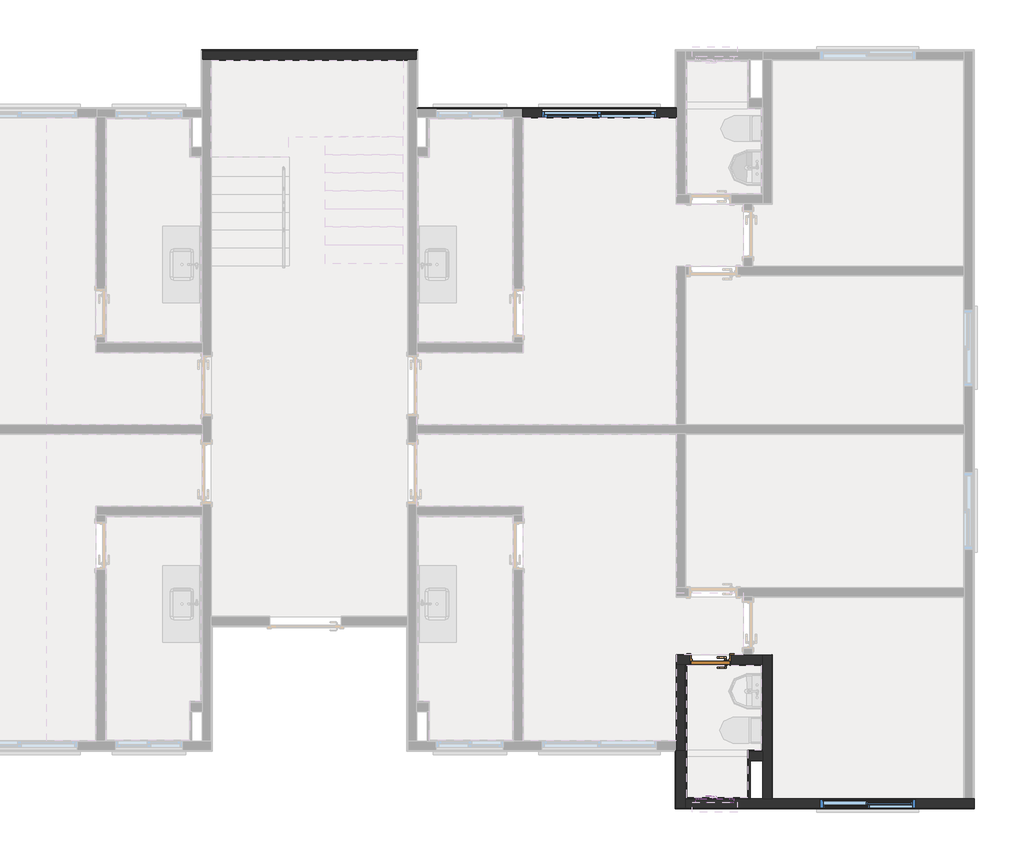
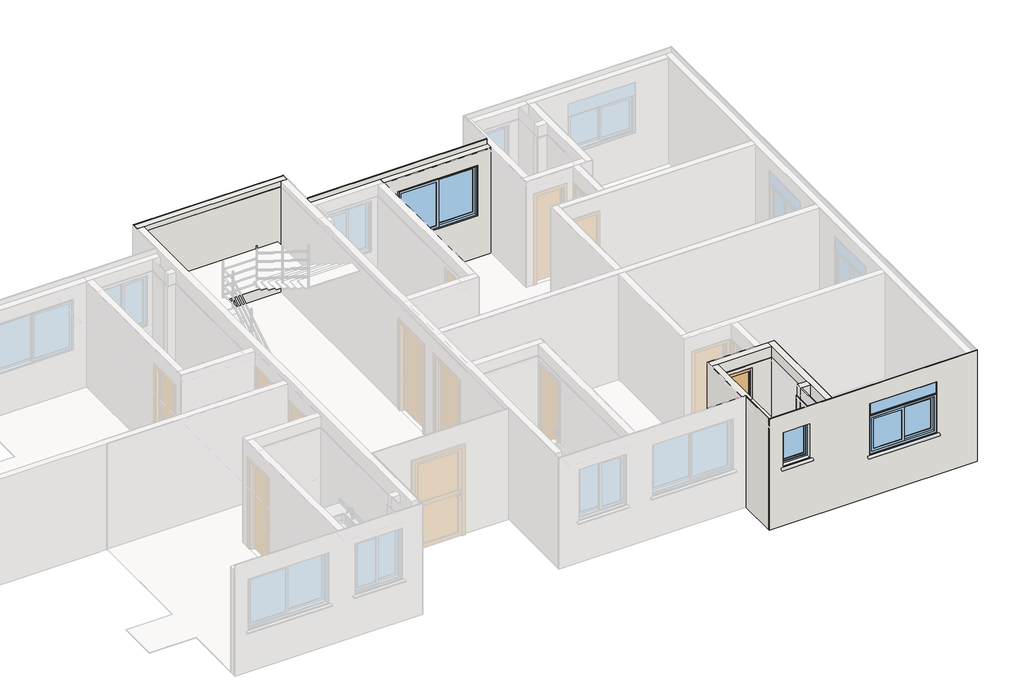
# One storey, part 6 of 9: 26 walls, 3 windows, 1 door.
"""IFC4 building model written with IfcOpenShell, lengths in millimetres."""

from ifc_helpers import new_model, si_unit, frame, origin, place, context, project, spatial, polyline, outline, extrude, faceted_brep, transform, mapped, element, save
from components import porta_de_madeira_interna_60_x_210_porta_de_madeira_interna_6d4bee1b, window_150x120_d34a449e, window_180x120_f0fd8075, window_60x80_6d4336cf

model = new_model("IFC4")

# Units and contexts
model_context = context("Model", 3, world=origin())
ifc_project = project(units=[si_unit("LENGTHUNIT", "METRE", prefix="MILLI")], contexts=[model_context])

# Site, building, storey
site = spatial("IfcSite", under=ifc_project)
building = spatial("IfcBuilding", under=site)
storey = spatial("IfcBuildingStorey", under=building, Name="3º Pavimento", Elevation=5260.0)

# Door
placement = place(None, origin())
porta_de_madeira_interna_60_x_210_porta_de_madeira_interna_shape = porta_de_madeira_interna_60_x_210_porta_de_madeira_interna_6d4bee1b(model_context)
element("IfcDoor", 1, ObjectType="Porta de Madeira Interna 60 x 210 : Porta de Madeira Interna 60 x 210", at=placement, inside=storey, context=model_context, shape_type="MappedRepresentation", body=[
    mapped(porta_de_madeira_interna_60_x_210_porta_de_madeira_interna_shape, transform((16681.9956991, 2796.8217615, 5260.0), x_axis=(-1.0, 0.0, 0.0), y_axis=(0.0, -1.0, 0.0), z_axis=(0.0, 0.0, 1.0))),
])

# Walls
element("IfcWall", 2, ObjectType="Mureta box", at=placement, inside=storey, context=model_context, shape_type="SweptSolid", body=[
    extrude(outline(polyline([(17290.0007274, 1294.9970972), (16310.0007274, 1294.9970972), (16310.0007274, 1304.9970972), (17290.0007274, 1304.9970972), (17290.0007274, 1294.9970972)])), frame((0.0, 0.0, 5260.0), z_axis=(0.0, 0.0, 1.0), x_axis=(1.0, 0.0, 0.0)), (0.0, 0.0, 1.0), 90.0),
    extrude(outline(polyline([(16310.0007274, 1374.9970972), (17290.0007274, 1374.9970972), (17290.0007274, 1364.9970972), (16310.0007274, 1364.9970972), (16310.0007274, 1374.9970972)])), frame((0.0, 0.0, 5260.0), z_axis=(0.0, 0.0, 1.0), x_axis=(1.0, 0.0, 0.0)), (0.0, 0.0, 1.0), 90.0),
    extrude(outline(polyline([(17290.0007274, 1364.9970972), (17290.0007274, 1304.9970972), (16310.0007274, 1304.9970972), (16310.0007274, 1364.9970972), (17290.0007274, 1364.9970972)])), frame((0.0, 0.0, 5260.0), z_axis=(0.0, 0.0, 1.0), x_axis=(1.0, 0.0, 0.0)), (0.0, 0.0, 1.0), 90.0),
])
element("IfcWall", 3, ObjectType="Alvenaria Estrutural", at=placement, inside=storey, context=model_context, shape_type="Brep", body=[
    faceted_brep([(12089.9984066, 12179.9995833, 5260.0), (12089.9984066, 12179.9995833, 7890.0), (11949.9984066, 12179.9995833, 7890.0), (8869.9963008, 12179.9995833, 7890.0), (8729.9963008, 12179.9995833, 7890.0), (8729.9963008, 12179.9995833, 5260.0), (8869.9963008, 12179.9995833, 5260.0), (8875.9991022, 12179.9995833, 5260.0), (11949.9984066, 12179.9995833, 5260.0), (12089.9984066, 12319.9995833, 5260.0), (8729.9963008, 12319.9995833, 5260.0), (8729.9963008, 12319.9995833, 7890.0), (12089.9984066, 12319.9995833, 7890.0)], [[[0, 1, 2, 3, 4, 5, 6, 7, 8]], [[9, 10, 11, 12]], [[6, 5, 10, 9, 0, 8, 7]], [[2, 1, 12, 11, 4, 3]], [[5, 4, 11, 10]], [[1, 0, 9, 12]]]),
])
element("IfcWall", 4, ObjectType="Alvenaria Estrutural", at=placement, inside=storey, context=model_context, shape_type="Brep", body=[
    faceted_brep([(17499.9970535, 1359.9970972, 5260.0), (17280.0007274, 1359.9970972, 5260.0), (17280.0007274, 1359.9970972, 7770.0), (17499.9970535, 1359.9970972, 7770.0), (17499.9970535, 1219.9970972, 5260.0), (17499.9970535, 1219.9970972, 7770.0), (17303.0007274, 1219.9970972, 7770.0), (17280.0007274, 1219.9970972, 7770.0), (17280.0007274, 1219.9970972, 5260.0), (17303.0007274, 1219.9970972, 5260.0)], [[[0, 1, 2, 3]], [[4, 5, 6, 7, 8, 9]], [[1, 0, 4, 9, 8]], [[3, 2, 7, 6, 5]], [[2, 1, 8, 7]], [[0, 3, 5, 4]]]),
])
element("IfcWall", 5, ObjectType="Alvenaria Estrutural", at=placement, inside=storey, context=model_context, shape_type="Brep", body=[
    faceted_brep([(17639.9970535, 619.9952456, 5260.0), (17639.9970535, 625.9952456, 5260.0), (17639.9970535, 2869.9967615, 5260.0), (17639.9970535, 2869.9967615, 7770.0), (17639.9970535, 625.9952456, 7770.0), (17639.9970535, 619.9952456, 7770.0), (17499.9970535, 619.9952456, 5260.0), (17499.9970535, 619.9952456, 7770.0), (17499.9970535, 1219.9970972, 7770.0), (17499.9970535, 1359.9970972, 7770.0), (17499.9970535, 2729.9967615, 7770.0), (17499.9970535, 2869.9967615, 7770.0), (17499.9970535, 2869.9967615, 5260.0), (17499.9970535, 2729.9967615, 5260.0), (17499.9970535, 2709.9967615, 5260.0), (17499.9970535, 1379.9970972, 5260.0), (17499.9970535, 1359.9970972, 5260.0), (17499.9970535, 1219.9970972, 5260.0)], [[[0, 1, 2, 3, 4, 5]], [[6, 7, 8, 9, 10, 11, 12, 13, 14, 15, 16, 17]], [[1, 0, 6, 17, 16, 15, 14, 13, 12, 2]], [[4, 3, 11, 10, 9, 8, 7, 5]], [[3, 2, 12, 11]], [[0, 5, 7, 6]]]),
])
element("IfcWall", 6, ObjectType="Alvenaria Estrutural", at=placement, inside=storey, context=model_context, shape_type="Brep", body=[
    faceted_brep([(16149.9956991, 2869.9967615, 7770.0), (17193.9966432, 2869.9967615, 7770.0), (17199.9966432, 2869.9967615, 7770.0), (17339.9966432, 2869.9967615, 7770.0), (17499.9970535, 2869.9967615, 7770.0), (17499.9970535, 2869.9967615, 5260.0), (17339.9966432, 2869.9967615, 5260.0), (17199.9966432, 2869.9967615, 5260.0), (17193.9966432, 2869.9967615, 5260.0), (17006.9956991, 2869.9967615, 5260.0), (17006.9956991, 2869.9967615, 7385.0), (16356.9956991, 2869.9967615, 7385.0), (16356.9956991, 2869.9967615, 5260.0), (16149.9956991, 2869.9967615, 5260.0), (17499.9970535, 2729.9967615, 7770.0), (16289.9956991, 2729.9967615, 7770.0), (16149.9956991, 2729.9967615, 7770.0), (16149.9956991, 2729.9967615, 5260.0), (16289.9956991, 2729.9967615, 5260.0), (16356.9956991, 2729.9967615, 5260.0), (16356.9956991, 2729.9967615, 7385.0), (17006.9956991, 2729.9967615, 7385.0), (17006.9956991, 2729.9967615, 5260.0), (17499.9970535, 2729.9967615, 5260.0)], [[[0, 1, 2, 3, 4, 5, 6, 7, 8, 9, 10, 11, 12, 13]], [[14, 15, 16, 17, 18, 19, 20, 21, 22, 23]], [[6, 5, 23, 22, 9, 8, 7]], [[1, 0, 16, 15, 14, 4, 3, 2]], [[12, 11, 20, 19]], [[11, 10, 21, 20]], [[10, 9, 22, 21]], [[0, 13, 17, 16]], [[5, 4, 14, 23]], [[13, 12, 19, 18, 17]]]),
])
element("IfcWall", 7, ObjectType="Alvenaria Estrutural", at=placement, inside=storey, context=model_context, shape_type="Brep", body=[
    faceted_brep([(16289.9960602, 479.9952456, 5260.0), (16289.9960602, 619.9952456, 5260.0), (16289.9960602, 1374.9970972, 5260.0), (16289.9960602, 1374.9970972, 7770.0), (16289.9960602, 619.9952456, 7770.0), (16289.9960602, 479.9952456, 7770.0), (16149.9960602, 479.9952456, 5260.0), (16149.9960602, 479.9952456, 7770.0), (16149.9960602, 1374.9970972, 7770.0), (16149.9960602, 1374.9970972, 5260.0)], [[[0, 1, 2, 3, 4, 5]], [[6, 7, 8, 9]], [[1, 0, 6, 9, 2]], [[3, 2, 9, 8]], [[4, 3, 8, 7, 5]], [[0, 5, 7, 6]]]),
])
element("IfcWall", 8, ObjectType="Alvenaria Estrutural", at=placement, inside=storey, context=model_context, shape_type="Brep", body=[
    faceted_brep([(16289.9956991, 1374.9970972, 5260.0), (16289.9956991, 2709.9967615, 5260.0), (16289.9956991, 2729.9967615, 5260.0), (16289.9956991, 2729.9967615, 7510.0), (16289.9956991, 2729.9967615, 7770.0), (16289.9956991, 1374.9970972, 7770.0), (16149.9956991, 1374.9970972, 5260.0), (16149.9956991, 1374.9970972, 7770.0), (16149.9956991, 1519.9983274, 7770.0), (16149.9956991, 1525.9983274, 7770.0), (16149.9956991, 2729.9967615, 7770.0), (16149.9956991, 2729.9967615, 5260.0), (16149.9956991, 1525.9983274, 5260.0), (16149.9956991, 1519.9983274, 5260.0)], [[[0, 1, 2, 3, 4, 5]], [[6, 7, 8, 9, 10, 11, 12, 13]], [[1, 0, 6, 13, 12, 11, 2]], [[5, 4, 10, 9, 8, 7]], [[0, 5, 7, 6]], [[3, 2, 11, 10, 4]]]),
])
element("IfcWall", 9, ObjectType="Alvenaria Estrutural", at=placement, inside=storey, context=model_context, shape_type="Brep", body=[
    faceted_brep([(16149.9956991, 11420.0223004, 5260.0), (16133.9970535, 11420.0223004, 5260.0), (13739.9956991, 11420.0223004, 5260.0), (13739.9956991, 11420.0223004, 7770.0), (16149.9956991, 11420.0223004, 7770.0), (14044.9954574, 11420.0223004, 7460.0), (14044.9954574, 11420.0223004, 6260.0), (13994.9954574, 11420.0223004, 6260.0), (13994.9954574, 11420.0223004, 6211.3083694), (15894.9954574, 11420.0223004, 6211.3083694), (15894.9954574, 11420.0223004, 6260.0), (15844.9954574, 11420.0223004, 6260.0), (15844.9954574, 11420.0223004, 7460.0), (13739.9956991, 11280.0223004, 5260.0), (13746.9960213, 11280.0223004, 5260.0), (13752.9960213, 11280.0223004, 5260.0), (16143.9956991, 11280.0223004, 5260.0), (16149.9956991, 11280.0223004, 5260.0), (16149.9956991, 11280.0223004, 7770.0), (16143.9956991, 11280.0223004, 7770.0), (13752.9960213, 11280.0223004, 7770.0), (13746.9960213, 11280.0223004, 7770.0), (13739.9956991, 11280.0223004, 7770.0), (14044.9954574, 11280.0223004, 6260.0), (14044.9954574, 11280.0223004, 7460.0), (15844.9954574, 11280.0223004, 7460.0), (15844.9954574, 11280.0223004, 6260.0), (14044.9954574, 11322.5223004, 6260.0), (15844.9954574, 11322.5223004, 6260.0), (15894.9954574, 11322.5223004, 6232.0326341), (15894.9954574, 11322.5223004, 6260.0), (13994.9954574, 11322.5223004, 6260.0), (13994.9954574, 11322.5223004, 6232.0326341)], [[[0, 1, 2, 3, 4], [5, 6, 7, 8, 9, 10, 11, 12]], [[13, 14, 15, 16, 17, 18, 19, 20, 21, 22], [23, 24, 25, 26]], [[1, 0, 17, 16, 15, 14, 13, 2]], [[3, 2, 13, 22]], [[4, 3, 22, 21, 20, 19, 18]], [[0, 4, 18, 17]], [[6, 5, 24, 23, 27]], [[5, 12, 25, 24]], [[12, 11, 28, 26, 25]], [[23, 26, 28, 27]], [[10, 9, 29, 30]], [[8, 7, 31, 32]], [[27, 28, 30, 29, 32, 31]], [[11, 10, 30, 28]], [[9, 8, 32, 29]], [[7, 6, 27, 31]]]),
])
element("IfcWall", 10, ObjectType="Alvenaria Estrutural", at=placement, inside=storey, context=model_context, shape_type="Brep", body=[
    faceted_brep([(20805.9970535, 619.9952456, 5260.0), (20789.9970535, 619.9952456, 5260.0), (20649.9955249, 619.9952456, 5260.0), (20643.9955249, 619.9952456, 5260.0), (17639.9970535, 619.9952456, 5260.0), (17499.9970535, 619.9952456, 5260.0), (17303.0007274, 619.9952456, 5260.0), (17280.0007274, 619.9952456, 5260.0), (16309.9956991, 619.9952456, 5260.0), (16289.9960602, 619.9952456, 5260.0), (16289.9960602, 619.9952456, 7510.0), (16289.9960602, 619.9952456, 7770.0), (17280.0007274, 619.9952456, 7770.0), (17303.0007274, 619.9952456, 7770.0), (17499.9970535, 619.9952456, 7770.0), (17639.9970535, 619.9952456, 7770.0), (20643.9955249, 619.9952456, 7770.0), (20649.9955249, 619.9952456, 7770.0), (20789.9970535, 619.9952456, 7770.0), (20805.9970535, 619.9952456, 7770.0), (16449.9960602, 619.9952456, 7460.0), (16449.9960602, 619.9952456, 6660.0), (17049.9960602, 619.9952456, 6660.0), (17049.9960602, 619.9952456, 7460.0), (18394.9962631, 619.9952456, 7460.0), (18394.9962631, 619.9952456, 6260.0), (19894.9962631, 619.9952456, 6260.0), (19894.9962631, 619.9952456, 7460.0), (16289.9960602, 479.9952456, 5260.0), (20805.9970535, 479.9952456, 5260.0), (20805.9970535, 479.9952456, 7770.0), (20789.9970535, 479.9952456, 7770.0), (16289.9960602, 479.9952456, 7770.0), (17099.9960602, 479.9952456, 6660.0), (17099.9960602, 479.9952456, 6611.3083694), (16399.9960602, 479.9952456, 6611.3083694), (16399.9960602, 479.9952456, 6660.0), (16449.9960602, 479.9952456, 6660.0), (16449.9960602, 479.9952456, 7460.0), (17049.9960602, 479.9952456, 7460.0), (17049.9960602, 479.9952456, 6660.0), (19944.9962631, 479.9952456, 6260.0), (19944.9962631, 479.9952456, 6211.3083694), (18344.9962631, 479.9952456, 6211.3083694), (18344.9962631, 479.9952456, 6260.0), (18394.9962631, 479.9952456, 6260.0), (18394.9962631, 479.9952456, 7460.0), (19894.9962631, 479.9952456, 7460.0), (19894.9962631, 479.9952456, 6260.0), (19944.9962631, 577.4952456, 6260.0), (19944.9962631, 577.4952456, 6232.0326341), (18344.9962631, 577.4952456, 6232.0326341), (18344.9962631, 577.4952456, 6260.0), (19894.9962631, 577.4952456, 6260.0), (18394.9962631, 577.4952456, 6260.0), (17099.9960602, 577.4952456, 6660.0), (17099.9960602, 577.4952456, 6632.0326341), (16399.9960602, 577.4952456, 6632.0326341), (16399.9960602, 577.4952456, 6660.0), (17049.9960602, 577.4952456, 6660.0), (16449.9960602, 577.4952456, 6660.0)], [[[0, 1, 2, 3, 4, 5, 6, 7, 8, 9, 10, 11, 12, 13, 14, 15, 16, 17, 18, 19], [20, 21, 22, 23], [24, 25, 26, 27]], [[28, 29, 30, 31, 32], [33, 34, 35, 36, 37, 38, 39, 40], [41, 42, 43, 44, 45, 46, 47, 48]], [[1, 0, 29, 28, 9, 8, 7, 6, 5, 4, 3, 2]], [[12, 11, 32, 31, 30, 19, 18, 17, 16, 15, 14, 13]], [[42, 41, 49, 50]], [[44, 43, 51, 52]], [[50, 49, 53, 54, 52, 51]], [[41, 48, 53, 49]], [[43, 42, 50, 51]], [[25, 24, 46, 45, 54]], [[24, 27, 47, 46]], [[27, 26, 53, 48, 47]], [[26, 25, 54, 53]], [[34, 33, 55, 56]], [[36, 35, 57, 58]], [[56, 55, 59, 60, 58, 57]], [[33, 40, 59, 55]], [[35, 34, 56, 57]], [[21, 20, 38, 37, 60]], [[20, 23, 39, 38]], [[23, 22, 59, 40, 39]], [[22, 21, 60, 59]], [[0, 19, 30, 29]], [[10, 9, 28, 32, 11]], [[37, 36, 58, 60]], [[45, 44, 52, 54]]]),
])
element("IfcWall", 11, ObjectType="Azulejo", at=placement, inside=storey, context=model_context, shape_type="SolidModel", body=[
    faceted_brep([(17479.9970535, 2709.9967615, 5260.0), (17006.9956991, 2709.9967615, 5260.0), (17006.9956991, 2719.9967615, 5260.0), (17489.9970535, 2719.9967615, 5260.0), (17489.9970535, 2709.9967615, 5260.0), (16309.9956991, 2709.9967615, 7510.0), (17479.9970535, 2709.9967615, 7510.0), (17489.9970535, 2709.9967615, 7510.0), (17489.9970535, 2719.9967615, 7510.0), (16299.9956991, 2719.9967615, 7510.0), (16299.9956991, 2709.9967615, 7510.0), (16356.9956991, 2709.9967615, 7385.0), (16356.9956991, 2709.9967615, 5260.0), (16356.9956991, 2719.9967615, 5260.0), (16356.9956991, 2719.9967615, 7385.0), (17006.9956991, 2719.9967615, 7385.0), (17006.9956991, 2709.9967615, 7385.0), (16309.9956991, 2709.9967615, 5260.0), (16299.9956991, 2709.9967615, 5260.0), (16299.9956991, 2719.9967615, 5260.0)], [[[0, 1, 2, 3, 4]], [[5, 6, 7, 8, 9, 10]], [[11, 12, 13, 14]], [[11, 14, 15, 16]], [[2, 1, 16, 15]], [[13, 12, 17, 18, 19]], [[14, 13, 19, 9, 8, 3, 2, 15]], [[1, 0, 4, 7, 6, 5, 10, 18, 17, 12, 11, 16]], [[4, 3, 8, 7]], [[10, 9, 19, 18]]]),
    extrude(outline(polyline([(5260.0, 17006.9956991), (5260.0, 17499.9970535), (7510.0, 17499.9970535), (7510.0, 16289.9956991), (5260.0, 16289.9956991), (5260.0, 16356.9956991), (7385.0, 16356.9956991), (7385.0, 17006.9956991), (5260.0, 17006.9956991)])), frame((0.0, 2719.9967615, 0.0), z_axis=(0.0, 1.0, 0.0), x_axis=(0.0, 0.0, 1.0)), (0.0, 0.0, 1.0), 10.0),
])
element("IfcWall", 12, ObjectType="Azulejo", at=placement, inside=storey, context=model_context, shape_type="SolidModel", body=[
    faceted_brep([(16299.9956991, 2709.9967615, 5260.0), (16309.9956991, 2709.9967615, 5260.0), (16309.9956991, 639.9950349, 5260.0), (16309.9956991, 629.9950349, 5260.0), (16299.9956991, 629.9950349, 5260.0), (16309.9956991, 639.9950349, 7510.0), (16309.9956991, 2709.9967615, 7510.0), (16299.9956991, 2709.9967615, 7510.0), (16299.9956991, 629.9950349, 7510.0), (16309.9956991, 629.9950349, 7510.0)], [[[0, 1, 2, 3, 4]], [[5, 6, 7, 8, 9]], [[1, 0, 7, 6]], [[7, 0, 4, 8]], [[2, 1, 6, 5, 9, 3]], [[4, 3, 9, 8]]]),
    extrude(outline(polyline([(16289.9956991, 619.9952456), (16289.9956991, 2719.9967615), (16299.9956991, 2719.9967615), (16299.9956991, 619.9952456), (16289.9956991, 619.9952456)])), frame((0.0, 0.0, 5260.0), z_axis=(0.0, 0.0, 1.0), x_axis=(1.0, 0.0, 0.0)), (0.0, 0.0, 1.0), 2250.0),
])
element("IfcWall", 13, ObjectType="Azulejo", at=placement, inside=storey, context=model_context, shape_type="SolidModel", body=[
    faceted_brep([(17270.0007274, 639.9950349, 5260.0), (17280.0007274, 639.9950349, 5260.0), (17280.0007274, 629.9950349, 5260.0), (16309.9956991, 629.9950349, 5260.0), (16309.9956991, 639.9950349, 5260.0), (17270.0007274, 639.9950349, 7510.0), (16309.9956991, 639.9950349, 7510.0), (16309.9956991, 629.9950349, 7510.0), (17280.0007274, 629.9950349, 7510.0), (17280.0007274, 639.9950349, 7510.0), (16449.9960602, 639.9950349, 6660.0), (16449.9960602, 639.9950349, 7460.0), (16449.9960602, 629.9950349, 7460.0), (16449.9960602, 629.9950349, 6660.0), (17049.9960602, 639.9950349, 7460.0), (17049.9960602, 629.9950349, 7460.0), (17049.9960602, 639.9950349, 6660.0), (17049.9960602, 629.9950349, 6660.0)], [[[0, 1, 2, 3, 4]], [[5, 6, 7, 8, 9]], [[10, 11, 12, 13]], [[11, 14, 15, 12]], [[14, 16, 17, 15]], [[16, 10, 13, 17]], [[6, 4, 3, 7]], [[1, 9, 8, 2]], [[3, 2, 8, 7], [13, 12, 15, 17]], [[4, 6, 5, 9, 1, 0], [10, 16, 14, 11]]]),
    extrude(outline(polyline([(5260.0, 16299.9956991), (5260.0, 17280.0007274), (7510.0, 17280.0007274), (7510.0, 16299.9956991), (5260.0, 16299.9956991)]), holes=[polyline([(6660.0, 16449.9960602), (7460.0, 16449.9960602), (7460.0, 17049.9960602), (6660.0, 17049.9960602), (6660.0, 16449.9960602)])]), frame((0.0, 619.9950349, 0.0), z_axis=(0.0, 1.0, 0.0), x_axis=(0.0, 0.0, 1.0)), (0.0, 0.0, 1.0), 10.0),
])
element("IfcWall", 14, ObjectType="Azulejo", at=placement, inside=storey, context=model_context, shape_type="SweptSolid", body=[
    extrude(outline(polyline([(17270.0007274, 1219.9970972), (17270.0007274, 1369.9970972), (17280.0007274, 1369.9970972), (17280.0007274, 1219.9970972), (17270.0007274, 1219.9970972)])), frame((0.0, 0.0, 5260.0), z_axis=(0.0, 0.0, 1.0), x_axis=(1.0, 0.0, 0.0)), (0.0, 0.0, 1.0), 2250.0),
    extrude(outline(polyline([(17290.0007274, 1359.9970972), (17290.0007274, 1219.9970972), (17280.0007274, 1219.9970972), (17280.0007274, 1359.9970972), (17290.0007274, 1359.9970972)])), frame((0.0, 0.0, 5260.0), z_axis=(0.0, 0.0, 1.0), x_axis=(1.0, 0.0, 0.0)), (0.0, 0.0, 1.0), 2250.0),
])
element("IfcWall", 15, ObjectType="Azulejo", at=placement, inside=storey, context=model_context, shape_type="Brep", body=[
    faceted_brep([(17270.0007274, 1369.9970972, 5260.0), (17270.0007274, 1379.9970972, 5260.0), (17479.9970535, 1379.9970972, 5260.0), (17489.9970535, 1379.9970972, 5260.0), (17489.9970535, 1369.9970972, 5260.0), (17479.9970535, 1379.9970972, 7510.0), (17270.0007274, 1379.9970972, 7510.0), (17270.0007274, 1369.9970972, 7510.0), (17489.9970535, 1369.9970972, 7510.0), (17489.9970535, 1379.9970972, 7510.0)], [[[0, 1, 2, 3, 4]], [[5, 6, 7, 8, 9]], [[1, 0, 7, 6]], [[7, 0, 4, 8]], [[2, 1, 6, 5, 9, 3]], [[4, 3, 9, 8]]]),
    faceted_brep([(17499.9970535, 1369.9970972, 5260.0), (17280.0007274, 1369.9970972, 5260.0), (17280.0007274, 1369.9970972, 7510.0), (17499.9970535, 1369.9970972, 7510.0), (17499.9970535, 1359.9970972, 5260.0), (17499.9970535, 1359.9970972, 7510.0), (17290.0007274, 1359.9970972, 7510.0), (17280.0007274, 1359.9970972, 7510.0), (17280.0007274, 1359.9970972, 5260.0), (17290.0007274, 1359.9970972, 5260.0)], [[[0, 1, 2, 3]], [[4, 5, 6, 7, 8, 9]], [[9, 8, 1, 0, 4]], [[6, 5, 3, 2, 7]], [[5, 4, 0, 3]], [[8, 7, 2, 1]]]),
])
element("IfcWall", 16, ObjectType="Azulejo - Shaft", at=placement, inside=storey, context=model_context, shape_type="SweptSolid", body=[
    extrude(outline(polyline([(17280.0007274, 1219.9970972), (17280.0007274, 639.9950349), (17270.0007274, 639.9950349), (17270.0007274, 1219.9970972), (17280.0007274, 1219.9970972)])), frame((0.0, 0.0, 5260.0), z_axis=(0.0, 0.0, 1.0), x_axis=(1.0, 0.0, 0.0)), (0.0, 0.0, 1.0), 2250.0),
])
element("IfcWall", 17, ObjectType="Gesso Liso + Pintura", at=placement, inside=storey, context=model_context, shape_type="SolidModel", body=[
    faceted_brep([(17645.9970535, 625.9952456, 5260.0), (20643.9955249, 625.9952456, 5260.0), (20643.9955249, 624.9952456, 5260.0), (17644.9970535, 624.9952456, 5260.0), (17644.9970535, 625.9952456, 5260.0), (20643.9955249, 624.9952456, 7770.0), (20643.9955249, 625.9952456, 7770.0), (17645.9970535, 625.9952456, 7770.0), (17644.9970535, 625.9952456, 7770.0), (17644.9970535, 624.9952456, 7770.0), (18394.9962631, 625.9952456, 6260.0), (18394.9962631, 625.9952456, 7460.0), (18394.9962631, 624.9952456, 7460.0), (18394.9962631, 624.9952456, 6260.0), (19894.9962631, 625.9952456, 7460.0), (19894.9962631, 624.9952456, 7460.0), (19894.9962631, 625.9952456, 6260.0), (19894.9962631, 624.9952456, 6260.0)], [[[0, 1, 2, 3, 4]], [[5, 6, 7, 8, 9]], [[10, 11, 12, 13]], [[12, 11, 14, 15]], [[15, 14, 16, 17]], [[10, 13, 17, 16]], [[2, 1, 6, 5]], [[2, 5, 9, 3], [13, 12, 15, 17]], [[1, 0, 4, 8, 7, 6], [11, 10, 16, 14]], [[4, 3, 9, 8]]]),
    extrude(outline(polyline([(5260.0, 20644.9955249), (7770.0, 20644.9955249), (7770.0, 17639.9970535), (5260.0, 17639.9970535), (5260.0, 20644.9955249)]), holes=[polyline([(6260.0, 18394.9962631), (7460.0, 18394.9962631), (7460.0, 19894.9962631), (6260.0, 19894.9962631), (6260.0, 18394.9962631)])]), frame((0.0, 619.9952456, 0.0), z_axis=(0.0, 1.0, 0.0), x_axis=(0.0, 0.0, 1.0)), (0.0, 0.0, 1.0), 5.0),
])
element("IfcWall", 18, ObjectType="Gesso Liso + Pintura", at=placement, inside=storey, context=model_context, shape_type="SolidModel", body=[
    extrude(outline(polyline([(17645.9970535, 2875.9967615), (17645.9970535, 625.9952456), (17644.9970535, 625.9952456), (17644.9970535, 2875.9967615), (17645.9970535, 2875.9967615)])), frame((0.0, 0.0, 5260.0), z_axis=(0.0, 0.0, 1.0), x_axis=(1.0, 0.0, 0.0)), (0.0, 0.0, 1.0), 2510.0),
    faceted_brep([(17644.9970535, 624.9952456, 5260.0), (17644.9970535, 2874.9967615, 5260.0), (17644.9970535, 2874.9967615, 7770.0), (17644.9970535, 624.9952456, 7770.0), (17639.9970535, 624.9952456, 5260.0), (17639.9970535, 624.9952456, 7770.0), (17639.9970535, 2869.9967615, 7770.0), (17639.9970535, 2874.9967615, 7770.0), (17639.9970535, 2874.9967615, 5260.0), (17639.9970535, 2869.9967615, 5260.0)], [[[0, 1, 2, 3]], [[4, 5, 6, 7, 8, 9]], [[9, 8, 1, 0, 4]], [[6, 5, 3, 2, 7]], [[5, 4, 0, 3]], [[8, 7, 2, 1]]]),
])
element("IfcWall", 19, ObjectType="Gesso Liso + Pintura", at=placement, inside=storey, context=model_context, shape_type="Brep", body=[
    faceted_brep([(16143.9956991, 1449.9983274, 5270.0), (16144.9956991, 1449.9983274, 5270.0), (16144.9956991, 1519.9983274, 5270.0), (16143.9956991, 1519.9983274, 5270.0), (16143.9956991, 1449.9983274, 5260.0), (16143.9956991, 2875.9967615, 5260.0), (16144.9956991, 2875.9967615, 5260.0), (16144.9956991, 1449.9983274, 5260.0), (16143.9956991, 2875.9967615, 5270.0), (16143.9956991, 2875.9967615, 7770.0), (16144.9956991, 2875.9967615, 7770.0), (16144.9956991, 2875.9967615, 5270.0), (16143.9956991, 1519.9983274, 7770.0), (16144.9956991, 1519.9983274, 7770.0)], [[[0, 1, 2, 3]], [[4, 5, 6, 7]], [[4, 7, 1, 0]], [[6, 5, 8, 9, 10, 11]], [[5, 4, 0, 3, 12, 9, 8]], [[7, 6, 11, 10, 13, 2, 1]], [[12, 3, 2, 13]], [[9, 12, 13, 10]]]),
    faceted_brep([(16144.9956991, 1519.9983274, 5270.0), (16144.9956991, 1449.9983274, 5270.0), (16149.9956991, 1449.9983274, 5270.0), (16149.9956991, 1519.9983274, 5270.0), (16144.9956991, 2874.9967615, 5260.0), (16144.9956991, 1449.9983274, 5260.0), (16144.9956991, 1519.9983274, 7770.0), (16144.9956991, 2874.9967615, 7770.0), (16144.9956991, 2874.9967615, 5270.0), (16149.9956991, 2874.9967615, 5260.0), (16149.9956991, 2869.9967615, 5260.0), (16149.9956991, 1449.9983274, 5260.0), (16149.9956991, 2874.9967615, 5270.0), (16149.9956991, 2874.9967615, 7770.0), (16149.9956991, 2869.9967615, 7770.0), (16149.9956991, 1519.9983274, 7770.0)], [[[0, 1, 2, 3]], [[4, 5, 1, 0, 6, 7, 8]], [[5, 4, 9, 10, 11]], [[1, 5, 11, 2]], [[11, 10, 9, 12, 13, 14, 15, 3, 2]], [[12, 9, 4, 8, 7, 13]], [[6, 0, 3, 15]], [[7, 6, 15, 14, 13]]]),
])
element("IfcWall", 20, ObjectType="Gesso Liso + Pintura", at=placement, inside=storey, context=model_context, shape_type="SweptSolid", body=[
    extrude(outline(polyline([(5260.0, 16144.9956991), (5260.0, 16356.9956991), (7385.0, 16356.9956991), (7385.0, 17006.9956991), (5260.0, 17006.9956991), (5260.0, 17199.9966432), (7770.0, 17199.9966432), (7770.0, 16144.9956991), (5260.0, 16144.9956991)])), frame((0.0, 2874.9967615, 0.0), z_axis=(0.0, 1.0, 0.0), x_axis=(0.0, 0.0, 1.0)), (0.0, 0.0, 1.0), 1.0),
    extrude(outline(polyline([(7770.0, 17199.9966432), (7770.0, 16149.9956991), (5260.0, 16149.9956991), (5260.0, 16356.9956991), (7385.0, 16356.9956991), (7385.0, 17006.9956991), (5260.0, 17006.9956991), (5260.0, 17199.9966432), (7770.0, 17199.9966432)])), frame((0.0, 2869.9967615, 0.0), z_axis=(0.0, 1.0, 0.0), x_axis=(0.0, 0.0, 1.0)), (0.0, 0.0, 1.0), 5.0),
])
element("IfcWall", 21, ObjectType="Gesso Liso + Pintura", at=placement, inside=storey, context=model_context, shape_type="SweptSolid", body=[
    extrude(outline(polyline([(5260.0, 13746.9960213), (5260.0, 16149.9960602), (7770.0, 16149.9960602), (7770.0, 13746.9960213), (5260.0, 13746.9960213)]), holes=[polyline([(6260.0, 14044.9954574), (7460.0, 14044.9954574), (7460.0, 15844.9954574), (6260.0, 15844.9954574), (6260.0, 14044.9954574)])]), frame((0.0, 11274.0223004, 0.0), z_axis=(0.0, 1.0, 0.0), x_axis=(0.0, 0.0, 1.0)), (0.0, 0.0, 1.0), 1.0),
    extrude(outline(polyline([(5260.0, 13746.9960213), (5260.0, 16149.9960602), (7770.0, 16149.9960602), (7770.0, 13746.9960213), (5260.0, 13746.9960213)]), holes=[polyline([(6260.0, 14044.9954574), (7460.0, 14044.9954574), (7460.0, 15844.9954574), (6260.0, 15844.9954574), (6260.0, 14044.9954574)])]), frame((0.0, 11275.0223004, 0.0), z_axis=(0.0, 1.0, 0.0), x_axis=(0.0, 0.0, 1.0)), (0.0, 0.0, 1.0), 5.0),
])
element("IfcWall", 22, ObjectType="Gesso Liso + Pintura", at=placement, inside=storey, context=model_context, shape_type="SolidModel", body=[
    faceted_brep([(11943.9984066, 12173.9995833, 5260.0), (8875.9991022, 12173.9995833, 5260.0), (8875.9991022, 12174.9995833, 5260.0), (11944.9984066, 12174.9995833, 5260.0), (11944.9984066, 12173.9995833, 5260.0), (8875.9991022, 12174.9995833, 7770.0), (8875.9991022, 12173.9995833, 7770.0), (11943.9984066, 12173.9995833, 7770.0), (11944.9984066, 12173.9995833, 7770.0), (11944.9984066, 12174.9995833, 7770.0)], [[[0, 1, 2, 3, 4]], [[5, 6, 7, 8, 9]], [[2, 1, 6, 5]], [[2, 5, 9, 3]], [[1, 0, 4, 8, 7, 6]], [[4, 3, 9, 8]]]),
    extrude(outline(polyline([(8874.9991022, 12179.9995833), (11949.9984066, 12179.9995833), (11949.9984066, 12174.9995833), (8874.9991022, 12174.9995833), (8874.9991022, 12179.9995833)])), frame((0.0, 0.0, 5260.0), z_axis=(0.0, 0.0, 1.0), x_axis=(1.0, 0.0, 0.0)), (0.0, 0.0, 1.0), 2510.0),
])
element("IfcWall", 23, ObjectType="Reboco + Pintura Externa", at=placement, inside=storey, context=model_context, shape_type="Brep", body=[
    faceted_brep([(16449.9960602, 464.9952456, 6660.0), (16449.9960602, 464.9952456, 7460.0), (16449.9960602, 463.9952456, 7460.0), (16449.9960602, 463.9952456, 6660.0), (17049.9960602, 464.9952456, 6660.0), (17049.9960602, 463.9952456, 6660.0), (17049.9960602, 464.9952456, 7460.0), (17049.9960602, 463.9952456, 7460.0), (18394.9962631, 464.9952456, 6260.0), (18394.9962631, 464.9952456, 7460.0), (18394.9962631, 463.9952456, 7460.0), (18394.9962631, 463.9952456, 6260.0), (19894.9962631, 464.9952456, 6260.0), (19894.9962631, 463.9952456, 6260.0), (19894.9962631, 464.9952456, 7460.0), (19894.9962631, 463.9952456, 7460.0), (16133.9960602, 464.9952456, 5260.0), (20805.9970535, 464.9952456, 5260.0), (20805.9970535, 463.9952456, 5260.0), (16133.9960602, 463.9952456, 5260.0), (16133.9960602, 464.9952456, 7770.0), (16133.9960602, 463.9952456, 7770.0), (16133.9960602, 463.9952456, 7890.0), (16133.9960602, 464.9952456, 7890.0), (20805.9970535, 464.9952456, 7770.0), (20805.9970535, 464.9952456, 7890.0), (20805.9970535, 463.9952456, 7890.0), (20805.9970535, 463.9952456, 7770.0)], [[[0, 1, 2, 3]], [[4, 0, 3, 5]], [[6, 4, 5, 7]], [[1, 6, 7, 2]], [[8, 9, 10, 11]], [[12, 8, 11, 13]], [[14, 12, 13, 15]], [[9, 14, 15, 10]], [[16, 17, 18, 19]], [[20, 16, 19, 21, 22, 23]], [[17, 24, 25, 26, 27, 18]], [[17, 16, 20, 23, 25, 24], [1, 0, 4, 6], [9, 8, 12, 14]], [[19, 18, 27, 26, 22, 21], [3, 2, 7, 5], [11, 10, 15, 13]], [[25, 23, 22, 26]]]),
    faceted_brep([(16144.9960602, 474.9952456, 5260.0), (20805.9970535, 474.9952456, 5260.0), (20805.9970535, 474.9952456, 7770.0), (20805.9970535, 474.9952456, 7890.0), (16144.9960602, 474.9952456, 7890.0), (16144.9960602, 474.9952456, 7770.0), (18394.9962631, 474.9952456, 6260.0), (18394.9962631, 474.9952456, 7460.0), (19894.9962631, 474.9952456, 7460.0), (19894.9962631, 474.9952456, 6260.0), (16449.9960602, 474.9952456, 6660.0), (16449.9960602, 474.9952456, 7460.0), (17049.9960602, 474.9952456, 7460.0), (17049.9960602, 474.9952456, 6660.0), (16449.9960602, 479.9952456, 6660.0), (16449.9960602, 479.9952456, 7460.0), (17049.9960602, 479.9952456, 6660.0), (17049.9960602, 479.9952456, 7460.0), (18394.9962631, 479.9952456, 6260.0), (18394.9962631, 479.9952456, 7460.0), (19894.9962631, 479.9952456, 6260.0), (19894.9962631, 479.9952456, 7460.0), (16144.9960602, 479.9952456, 5260.0), (16149.9960602, 479.9952456, 5260.0), (16289.9960602, 479.9952456, 5260.0), (20805.9970535, 479.9952456, 5260.0), (20805.9970535, 479.9952456, 7770.0), (20805.9970535, 479.9952456, 7890.0), (16144.9960602, 479.9952456, 7770.0), (16144.9960602, 479.9952456, 7890.0), (16149.9960602, 479.9952456, 7890.0), (20789.9970535, 479.9952456, 7890.0)], [[[0, 1, 2, 3, 4, 5], [6, 7, 8, 9], [10, 11, 12, 13]], [[11, 10, 14, 15]], [[10, 13, 16, 14]], [[13, 12, 17, 16]], [[12, 11, 15, 17]], [[7, 6, 18, 19]], [[6, 9, 20, 18]], [[9, 8, 21, 20]], [[8, 7, 19, 21]], [[1, 0, 22, 23, 24, 25]], [[2, 1, 25, 26, 27, 3]], [[25, 24, 23, 22, 28, 29, 30, 31, 27, 26], [15, 14, 16, 17], [19, 18, 20, 21]], [[28, 22, 0, 5, 4, 29]], [[4, 3, 27, 31, 30, 29]]]),
    faceted_brep([(20805.9970535, 474.9952456, 5260.0), (16134.9960602, 474.9952456, 5260.0), (16134.9960602, 474.9952456, 7770.0), (16134.9960602, 474.9952456, 7890.0), (20805.9970535, 474.9952456, 7890.0), (20805.9970535, 474.9952456, 7770.0), (18394.9962631, 474.9952456, 7460.0), (18394.9962631, 474.9952456, 6260.0), (19894.9962631, 474.9952456, 6260.0), (19894.9962631, 474.9952456, 7460.0), (16449.9960602, 474.9952456, 7460.0), (16449.9960602, 474.9952456, 6660.0), (17049.9960602, 474.9952456, 6660.0), (17049.9960602, 474.9952456, 7460.0), (16449.9960602, 464.9952456, 7460.0), (16449.9960602, 464.9952456, 6660.0), (17049.9960602, 464.9952456, 6660.0), (17049.9960602, 464.9952456, 7460.0), (18394.9962631, 464.9952456, 7460.0), (18394.9962631, 464.9952456, 6260.0), (19894.9962631, 464.9952456, 6260.0), (19894.9962631, 464.9952456, 7460.0), (20805.9970535, 464.9952456, 5260.0), (16134.9960602, 464.9952456, 5260.0), (20805.9970535, 464.9952456, 7890.0), (20805.9970535, 464.9952456, 7770.0), (16134.9960602, 464.9952456, 7890.0), (16134.9960602, 464.9952456, 7770.0)], [[[0, 1, 2, 3, 4, 5], [6, 7, 8, 9], [10, 11, 12, 13]], [[11, 10, 14, 15]], [[12, 11, 15, 16]], [[13, 12, 16, 17]], [[10, 13, 17, 14]], [[7, 6, 18, 19]], [[8, 7, 19, 20]], [[9, 8, 20, 21]], [[6, 9, 21, 18]], [[1, 0, 22, 23]], [[0, 5, 4, 24, 25, 22]], [[23, 22, 25, 24, 26, 27], [15, 14, 17, 16], [19, 18, 21, 20]], [[1, 23, 27, 26, 3, 2]], [[4, 3, 26, 24]]]),
])
element("IfcWall", 24, ObjectType="Reboco + Pintura Externa", at=placement, inside=storey, context=model_context, shape_type="SolidModel", body=[
    faceted_brep([(16133.9960602, 464.9952456, 5260.0), (16133.9960602, 1363.9983274, 5260.0), (16133.9960602, 1364.9983274, 5260.0), (16134.9960602, 1364.9983274, 5260.0), (16134.9960602, 464.9952456, 5260.0), (16134.9960602, 464.9952456, 5270.0), (16134.9960602, 1364.9983274, 5270.0), (16134.9960602, 1364.9983274, 7770.0), (16134.9960602, 1364.9983274, 7780.0), (16134.9960602, 1364.9983274, 7890.0), (16134.9960602, 464.9952456, 7890.0), (16134.9960602, 464.9952456, 7780.0), (16134.9960602, 464.9952456, 7770.0), (16133.9960602, 464.9952456, 5270.0), (16133.9960602, 464.9952456, 7890.0), (16133.9960602, 464.9952456, 7780.0), (16133.9960602, 464.9952456, 7770.0), (16133.9960602, 1364.9983274, 5270.0), (16133.9960602, 1364.9983274, 7770.0), (16133.9960602, 1364.9983274, 7780.0), (16133.9960602, 1364.9983274, 7890.0), (16133.9960602, 1363.9983274, 7890.0)], [[[0, 1, 2, 3, 4]], [[5, 4, 3, 6, 7, 8, 9, 10, 11, 12]], [[13, 0, 4, 5, 12, 11, 10, 14, 15, 16]], [[6, 3, 2, 17, 18, 19, 20, 9, 8, 7]], [[10, 9, 20, 21, 14]], [[1, 0, 13, 16, 15, 14, 21, 20, 19, 18, 17, 2]]]),
    extrude(outline(polyline([(16133.9960602, 1379.9983274), (16133.9960602, 1449.9983274), (16134.9960602, 1449.9983274), (16134.9960602, 1379.9983274), (16133.9960602, 1379.9983274)])), frame((0.0, 0.0, 5260.0), z_axis=(0.0, 0.0, 1.0), x_axis=(1.0, 0.0, 0.0)), (0.0, 0.0, 1.0), 10.0),
    faceted_brep([(16144.9960602, 1449.9983274, 5270.0), (16144.9960602, 1379.9983274, 5270.0), (16149.9960602, 1379.9983274, 5270.0), (16149.9960602, 1449.9983274, 5270.0), (16144.9960602, 1449.9983274, 5260.0), (16144.9960602, 479.9952456, 5260.0), (16144.9960602, 479.9952456, 5270.0), (16144.9960602, 479.9952456, 7770.0), (16144.9960602, 479.9952456, 7780.0), (16144.9960602, 479.9952456, 7890.0), (16144.9960602, 1379.9983274, 7890.0), (16144.9960602, 1379.9983274, 7780.0), (16144.9960602, 1379.9983274, 7770.0), (16149.9960602, 1449.9983274, 5260.0), (16149.9960602, 479.9952456, 5260.0), (16149.9960602, 479.9952456, 5270.0), (16149.9960602, 479.9952456, 7770.0), (16149.9960602, 479.9952456, 7780.0), (16149.9960602, 479.9952456, 7890.0), (16149.9960602, 1379.9983274, 7770.0), (16149.9960602, 1379.9983274, 7780.0), (16149.9960602, 1379.9983274, 7890.0)], [[[0, 1, 2, 3]], [[4, 5, 6, 7, 8, 9, 10, 11, 12, 1, 0]], [[5, 4, 13, 14]], [[4, 0, 3, 13]], [[6, 5, 14, 15, 16, 17, 18, 9, 8, 7]], [[14, 13, 3, 2, 19, 20, 21, 18, 17, 16, 15]], [[1, 12, 11, 10, 21, 20, 19, 2]], [[10, 9, 18, 21]]]),
    faceted_brep([(16144.9960602, 1379.9983274, 5270.0), (16144.9960602, 1449.9983274, 5270.0), (16143.9956991, 1449.9983274, 5270.0), (16134.9960602, 1449.9983274, 5270.0), (16134.9960602, 1379.9983274, 5270.0), (16144.9960602, 474.9952456, 5260.0), (16144.9960602, 1449.9983274, 5260.0), (16144.9960602, 1379.9983274, 7770.0), (16144.9960602, 1379.9983274, 7780.0), (16144.9960602, 1379.9983274, 7890.0), (16144.9960602, 474.9952456, 7890.0), (16144.9960602, 474.9952456, 7780.0), (16144.9960602, 474.9952456, 7770.0), (16144.9960602, 474.9952456, 5270.0), (16134.9960602, 474.9952456, 5260.0), (16134.9960602, 1449.9983274, 5260.0), (16143.9956991, 1449.9983274, 5260.0), (16134.9960602, 474.9952456, 5270.0), (16134.9960602, 474.9952456, 7770.0), (16134.9960602, 474.9952456, 7780.0), (16134.9960602, 474.9952456, 7890.0), (16134.9960602, 1379.9983274, 7890.0), (16134.9960602, 1379.9983274, 7780.0), (16134.9960602, 1379.9983274, 7770.0)], [[[0, 1, 2, 3, 4]], [[5, 6, 1, 0, 7, 8, 9, 10, 11, 12, 13]], [[6, 5, 14, 15, 16]], [[1, 6, 16, 15, 3, 2]], [[15, 14, 17, 18, 19, 20, 21, 22, 23, 4, 3]], [[14, 5, 13, 12, 11, 10, 20, 19, 18, 17]], [[7, 0, 4, 23, 22, 21, 9, 8]], [[10, 9, 21, 20]]]),
])
element("IfcWall", 25, ObjectType="Reboco + Pintura Externa", at=placement, inside=storey, context=model_context, shape_type="Brep", body=[
    faceted_brep([(16149.9960602, 11435.0223004, 5260.0), (16149.9960602, 11435.0223004, 7770.0), (16149.9960602, 11435.0223004, 7890.0), (12104.9984066, 11435.0223004, 7890.0), (12104.9984066, 11435.0223004, 7770.0), (12104.9984066, 11435.0223004, 5260.0), (12394.9954974, 11435.0223004, 6260.0), (12394.9954974, 11435.0223004, 7460.0), (13444.9954974, 11435.0223004, 7460.0), (13444.9954974, 11435.0223004, 6260.0), (14044.9954574, 11435.0223004, 6260.0), (14044.9954574, 11435.0223004, 7460.0), (15844.9954574, 11435.0223004, 7460.0), (15844.9954574, 11435.0223004, 6260.0), (14044.9954574, 11436.0223004, 6260.0), (14044.9954574, 11436.0223004, 7460.0), (15844.9954574, 11436.0223004, 6260.0), (15844.9954574, 11436.0223004, 7460.0), (12394.9954974, 11436.0223004, 6260.0), (12394.9954974, 11436.0223004, 7460.0), (13444.9954974, 11436.0223004, 6260.0), (13444.9954974, 11436.0223004, 7460.0), (12105.9984066, 11436.0223004, 5260.0), (16149.9960602, 11436.0223004, 5260.0), (12104.9984066, 11436.0223004, 5260.0), (16149.9960602, 11436.0223004, 7770.0), (16149.9960602, 11436.0223004, 7890.0), (12104.9984066, 11436.0223004, 7770.0), (12104.9984066, 11436.0223004, 7890.0), (12105.9984066, 11436.0223004, 7890.0)], [[[0, 1, 2, 3, 4, 5], [6, 7, 8, 9], [10, 11, 12, 13]], [[11, 10, 14, 15]], [[10, 13, 16, 14]], [[13, 12, 17, 16]], [[12, 11, 15, 17]], [[7, 6, 18, 19]], [[6, 9, 20, 18]], [[9, 8, 21, 20]], [[8, 7, 19, 21]], [[22, 23, 0, 5, 24]], [[1, 0, 23, 25, 26, 2]], [[23, 22, 24, 27, 28, 29, 26, 25], [15, 14, 16, 17], [19, 18, 20, 21]], [[5, 4, 3, 28, 27, 24]], [[3, 2, 26, 29, 28]]]),
    faceted_brep([(14044.9954574, 11425.0223004, 6260.0), (14044.9954574, 11425.0223004, 7460.0), (14044.9954574, 11420.0223004, 7460.0), (14044.9954574, 11420.0223004, 6260.0), (15844.9954574, 11425.0223004, 6260.0), (15844.9954574, 11420.0223004, 6260.0), (15844.9954574, 11425.0223004, 7460.0), (15844.9954574, 11420.0223004, 7460.0), (12394.9954974, 11425.0223004, 6260.0), (12394.9954974, 11425.0223004, 7460.0), (12394.9954974, 11420.0223004, 7460.0), (12394.9954974, 11420.0223004, 6260.0), (13444.9954974, 11425.0223004, 6260.0), (13444.9954974, 11420.0223004, 6260.0), (13444.9954974, 11425.0223004, 7460.0), (13444.9954974, 11420.0223004, 7460.0), (12089.9984066, 11425.0223004, 5260.0), (16149.9960602, 11425.0223004, 5260.0), (16149.9960602, 11420.0223004, 5260.0), (13739.9956991, 11420.0223004, 5260.0), (12089.9984066, 11420.0223004, 5260.0), (12089.9984066, 11425.0223004, 7770.0), (12089.9984066, 11420.0223004, 7770.0), (12089.9984066, 11420.0223004, 7890.0), (12089.9984066, 11425.0223004, 7890.0), (16149.9960602, 11425.0223004, 7770.0), (16149.9960602, 11425.0223004, 7890.0), (16149.9960602, 11420.0223004, 7890.0), (16149.9960602, 11420.0223004, 7770.0)], [[[0, 1, 2, 3]], [[4, 0, 3, 5]], [[6, 4, 5, 7]], [[1, 6, 7, 2]], [[8, 9, 10, 11]], [[12, 8, 11, 13]], [[14, 12, 13, 15]], [[9, 14, 15, 10]], [[16, 17, 18, 19, 20]], [[21, 16, 20, 22, 23, 24]], [[17, 25, 26, 27, 28, 18]], [[17, 16, 21, 24, 26, 25], [1, 0, 4, 6], [9, 8, 12, 14]], [[20, 19, 18, 28, 27, 23, 22], [3, 2, 7, 5], [11, 10, 15, 13]], [[26, 24, 23, 27]]]),
    faceted_brep([(16149.9960602, 11435.0223004, 5260.0), (12089.9984066, 11435.0223004, 5260.0), (12089.9984066, 11435.0223004, 7770.0), (12089.9984066, 11435.0223004, 7890.0), (16149.9960602, 11435.0223004, 7890.0), (16149.9960602, 11435.0223004, 7770.0), (12394.9954974, 11435.0223004, 7460.0), (12394.9954974, 11435.0223004, 6260.0), (13444.9954974, 11435.0223004, 6260.0), (13444.9954974, 11435.0223004, 7460.0), (14044.9954574, 11435.0223004, 7460.0), (14044.9954574, 11435.0223004, 6260.0), (15844.9954574, 11435.0223004, 6260.0), (15844.9954574, 11435.0223004, 7460.0), (14044.9954574, 11425.0223004, 7460.0), (14044.9954574, 11425.0223004, 6260.0), (15844.9954574, 11425.0223004, 6260.0), (15844.9954574, 11425.0223004, 7460.0), (12394.9954974, 11425.0223004, 7460.0), (12394.9954974, 11425.0223004, 6260.0), (13444.9954974, 11425.0223004, 6260.0), (13444.9954974, 11425.0223004, 7460.0), (16149.9960602, 11425.0223004, 5260.0), (12089.9984066, 11425.0223004, 5260.0), (16149.9960602, 11425.0223004, 7890.0), (16149.9960602, 11425.0223004, 7770.0), (12089.9984066, 11425.0223004, 7890.0), (12089.9984066, 11425.0223004, 7770.0)], [[[0, 1, 2, 3, 4, 5], [6, 7, 8, 9], [10, 11, 12, 13]], [[11, 10, 14, 15]], [[12, 11, 15, 16]], [[13, 12, 16, 17]], [[10, 13, 17, 14]], [[7, 6, 18, 19]], [[8, 7, 19, 20]], [[9, 8, 20, 21]], [[6, 9, 21, 18]], [[1, 0, 22, 23]], [[0, 5, 4, 24, 25, 22]], [[23, 22, 25, 24, 26, 27], [15, 14, 17, 16], [19, 18, 21, 20]], [[4, 3, 26, 24]], [[2, 1, 23, 27, 26, 3]]]),
])
element("IfcWall", 26, ObjectType="Reboco + Pintura Externa", at=placement, inside=storey, context=model_context, shape_type="SolidModel", body=[
    extrude(outline(polyline([(8714.9963008, 12335.9995833), (12105.9984066, 12335.9995833), (12105.9984066, 12334.9995833), (8714.9963008, 12334.9995833), (8714.9963008, 12335.9995833)])), frame((0.0, 0.0, 5260.0), z_axis=(0.0, 0.0, 1.0), x_axis=(1.0, 0.0, 0.0)), (0.0, 0.0, 1.0), 2630.0),
    faceted_brep([(12094.9984066, 12324.9995833, 5260.0), (8729.9963008, 12324.9995833, 5260.0), (8729.9963008, 12324.9995833, 7890.0), (12094.9984066, 12324.9995833, 7890.0), (12089.9984066, 12319.9995833, 5260.0), (8729.9963008, 12319.9995833, 5260.0), (12094.9984066, 12319.9995833, 5260.0), (12089.9984066, 12319.9995833, 7890.0), (12094.9984066, 12319.9995833, 7890.0), (8729.9963008, 12319.9995833, 7890.0)], [[[0, 1, 2, 3]], [[4, 5, 1, 0, 6]], [[7, 8, 3, 2, 9]], [[5, 9, 2, 1]], [[5, 4, 6, 8, 7, 9]], [[8, 6, 0, 3]]]),
    extrude(outline(polyline([(8724.9963008, 12324.9995833), (8724.9963008, 12334.9995833), (12104.9984066, 12334.9995833), (12104.9984066, 12324.9995833), (8724.9963008, 12324.9995833)])), frame((0.0, 0.0, 5260.0), z_axis=(0.0, 0.0, 1.0), x_axis=(1.0, 0.0, 0.0)), (0.0, 0.0, 1.0), 2630.0),
])
element("IfcWall", 27, ObjectType="Shaft Drywall", at=placement, inside=storey, context=model_context, shape_type="Brep", body=[
    faceted_brep([(17280.0007274, 1219.9970972, 5260.0), (17280.0007274, 639.9950349, 5260.0), (17280.0007274, 619.9952456, 5260.0), (17280.0007274, 619.9952456, 7510.0), (17280.0007274, 619.9952456, 7770.0), (17280.0007274, 1219.9970972, 7770.0), (17303.0007274, 1219.9970972, 5260.0), (17303.0007274, 1219.9970972, 7770.0), (17303.0007274, 619.9952456, 7770.0), (17303.0007274, 619.9952456, 5260.0)], [[[0, 1, 2, 3, 4, 5]], [[6, 7, 8, 9]], [[1, 0, 6, 9, 2]], [[5, 4, 8, 7]], [[3, 2, 9, 8, 4]], [[0, 5, 7, 6]]]),
])

# Windows
window_150x120_shape = window_150x120_d34a449e(model_context)
element("IfcWindow", 28, ObjectType="Veneziana - 2 Painéis : 150x120", at=placement, inside=storey, context=model_context, shape_type="MappedRepresentation", body=[
    mapped(window_150x120_shape, transform((19144.9962631, 549.9952456, 5610.0), x_axis=(1.0, 0.0, 0.0), y_axis=(0.0, 1.0, 0.0), z_axis=(0.0, 0.0, 1.0))),
])
window_180x120_shape = window_180x120_f0fd8075(model_context)
element("IfcWindow", 29, ObjectType="Janela de correr - 2 Painéis : 180x120", at=placement, inside=storey, context=model_context, shape_type="MappedRepresentation", body=[
    mapped(window_180x120_shape, transform((14944.9954574, 11350.0223004, 5610.0), x_axis=(1.0, 0.0, 0.0), y_axis=(0.0, 1.0, 0.0), z_axis=(0.0, 0.0, 1.0))),
])
window_60x80_shape = window_60x80_6d4336cf(model_context)
element("IfcWindow", 30, ObjectType="Janela Maxim-ar : 60x80", at=placement, inside=storey, context=model_context, shape_type="MappedRepresentation", body=[
    mapped(window_60x80_shape, transform((16749.9960602, 549.9952456, 6010.0), x_axis=(1.0, 0.0, 0.0), y_axis=(0.0, 1.0, 0.0), z_axis=(0.0, 0.0, 1.0))),
])

save(model, "model.ifc")
